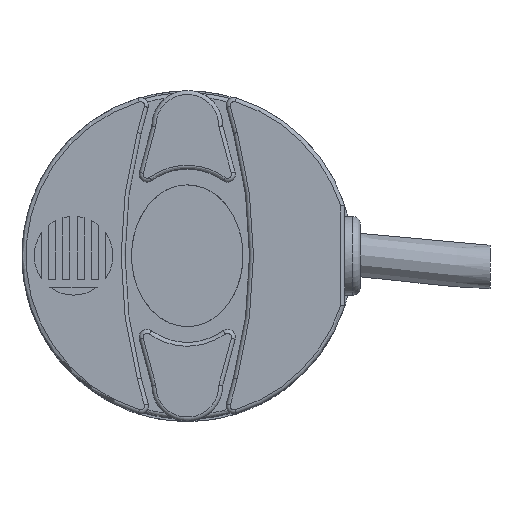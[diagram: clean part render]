
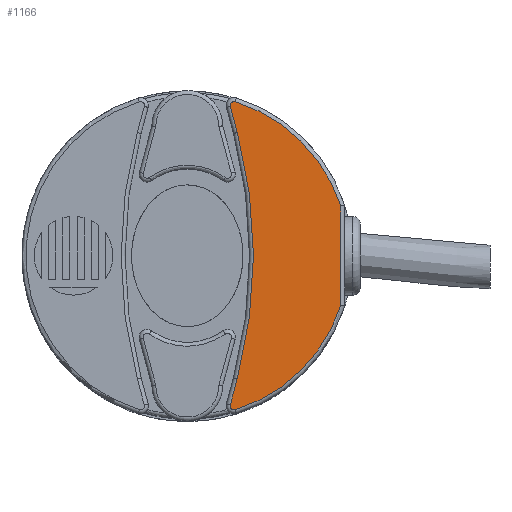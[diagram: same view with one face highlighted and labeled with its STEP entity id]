
A CAD part, top view. The second image highlights one B-rep face of the part: STEP entity #1166.
In plain terms, the highlighted planar face has unit normal (0, 0, 1).
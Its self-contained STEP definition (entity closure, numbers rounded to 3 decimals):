
#1166 = ADVANCED_FACE( '', ( #2333 ), #2334, .T. );
#2333 = FACE_OUTER_BOUND( '', #6354, .T. );
#2334 = PLANE( '', #6355 );
#6354 = EDGE_LOOP( '', ( #8937, #8938, #8939, #8940, #8941, #8942, #8943, #8944 ) );
#6355 = AXIS2_PLACEMENT_3D( '', #8945, #8946, #8947 );
#8937 = ORIENTED_EDGE( '', *, *, #9581, .T. );
#8938 = ORIENTED_EDGE( '', *, *, #9818, .T. );
#8939 = ORIENTED_EDGE( '', *, *, #9931, .T. );
#8940 = ORIENTED_EDGE( '', *, *, #9946, .T. );
#8941 = ORIENTED_EDGE( '', *, *, #9264, .T. );
#8942 = ORIENTED_EDGE( '', *, *, #9772, .T. );
#8943 = ORIENTED_EDGE( '', *, *, #10006, .T. );
#8944 = ORIENTED_EDGE( '', *, *, #9587, .T. );
#8945 = CARTESIAN_POINT( '', ( 5.946, -19.096, 42.5 ) );
#8946 = DIRECTION( '', ( 0., 0., 1. ) );
#8947 = DIRECTION( '', ( 1., 0., 0. ) );
#9264 = EDGE_CURVE( '', #10376, #10374, #10377, .T. );
#9581 = EDGE_CURVE( '', #10864, #10868, #10870, .T. );
#9587 = EDGE_CURVE( '', #10876, #10864, #10877, .T. );
#9772 = EDGE_CURVE( '', #10374, #11131, #11133, .T. );
#9818 = EDGE_CURVE( '', #10868, #11194, #11196, .T. );
#9931 = EDGE_CURVE( '', #11194, #11340, #11342, .T. );
#9946 = EDGE_CURVE( '', #11340, #10376, #11357, .T. );
#10006 = EDGE_CURVE( '', #11131, #10876, #11422, .T. );
#10374 = VERTEX_POINT( '', #12274 );
#10376 = VERTEX_POINT( '', #12276 );
#10377 = LINE( '', #12277, #12278 );
#10864 = VERTEX_POINT( '', #13219 );
#10868 = VERTEX_POINT( '', #13223 );
#10870 = CIRCLE( '', #13240, 20.5 );
#10876 = VERTEX_POINT( '', #13248 );
#10877 = CIRCLE( '', #13249, 0.5 );
#11131 = VERTEX_POINT( '', #13853 );
#11133 = CIRCLE( '', #13855, 60.5 );
#11194 = VERTEX_POINT( '', #14256 );
#11196 = LINE( '', #14269, #14270 );
#11340 = VERTEX_POINT( '', #15555 );
#11342 = CIRCLE( '', #15557, 20.5 );
#11357 = CIRCLE( '', #18024, 0.5 );
#11422 = LINE( '', #18431, #18432 );
#12274 = CARTESIAN_POINT( '', ( 6.349, 15.659, 42.5 ) );
#12276 = CARTESIAN_POINT( '', ( 5.463, 18.966, 42.5 ) );
#12277 = CARTESIAN_POINT( '', ( 6.349, 15.659, 42.5 ) );
#12278 = VECTOR( '', #18763, 1000. );
#13219 = CARTESIAN_POINT( '', ( 6.094, -19.573, 42.5 ) );
#13223 = CARTESIAN_POINT( '', ( 19.5, -6.325, 42.5 ) );
#13240 = AXIS2_PLACEMENT_3D( '', #19191, #19192, #19193 );
#13248 = CARTESIAN_POINT( '', ( 5.463, -18.966, 42.5 ) );
#13249 = AXIS2_PLACEMENT_3D( '', #19199, #19200, #19201 );
#13853 = CARTESIAN_POINT( '', ( 6.349, -15.659, 42.5 ) );
#13855 = AXIS2_PLACEMENT_3D( '', #19402, #19403, #19404 );
#14256 = CARTESIAN_POINT( '', ( 19.5, 6.325, 42.5 ) );
#14269 = CARTESIAN_POINT( '', ( 19.5, -19.096, 42.5 ) );
#14270 = VECTOR( '', #19443, 1000. );
#15555 = CARTESIAN_POINT( '', ( 6.094, 19.573, 42.5 ) );
#15557 = AXIS2_PLACEMENT_3D( '', #19558, #19559, #19560 );
#18024 = AXIS2_PLACEMENT_3D( '', #19569, #19570, #19571 );
#18431 = CARTESIAN_POINT( '', ( 5.463, -18.966, 42.5 ) );
#18432 = VECTOR( '', #19621, 1000. );
#18763 = DIRECTION( '', ( 0.259, -0.966, 0. ) );
#19191 = CARTESIAN_POINT( '', ( 0., 0., 42.5 ) );
#19192 = DIRECTION( '', ( 0., 0., 1. ) );
#19193 = DIRECTION( '', ( 1., 0., 0. ) );
#19199 = CARTESIAN_POINT( '', ( 5.946, -19.096, 42.5 ) );
#19200 = DIRECTION( '', ( 0., 0., 1. ) );
#19201 = DIRECTION( '', ( 1., 0., 0. ) );
#19402 = CARTESIAN_POINT( '', ( -52.09, 0., 42.5 ) );
#19403 = DIRECTION( '', ( 0., 0., -1. ) );
#19404 = DIRECTION( '', ( 1., 0., 0. ) );
#19443 = DIRECTION( '', ( 0., 1., 0. ) );
#19558 = CARTESIAN_POINT( '', ( 0., 0., 42.5 ) );
#19559 = DIRECTION( '', ( 0., 0., 1. ) );
#19560 = DIRECTION( '', ( 1., 0., 0. ) );
#19569 = CARTESIAN_POINT( '', ( 5.946, 19.096, 42.5 ) );
#19570 = DIRECTION( '', ( 0., 0., 1. ) );
#19571 = DIRECTION( '', ( 1., 0., 0. ) );
#19621 = DIRECTION( '', ( -0.259, -0.966, 0. ) );
